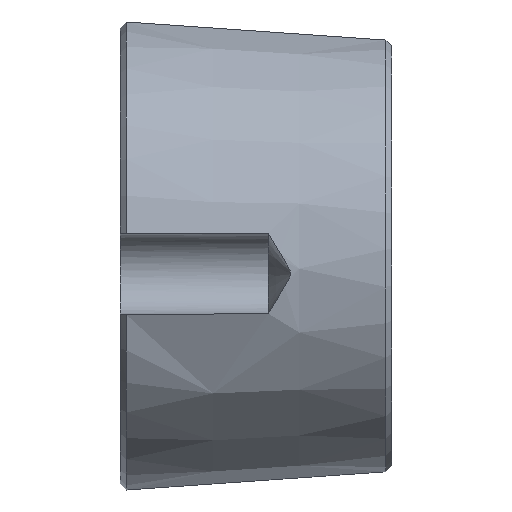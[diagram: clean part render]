
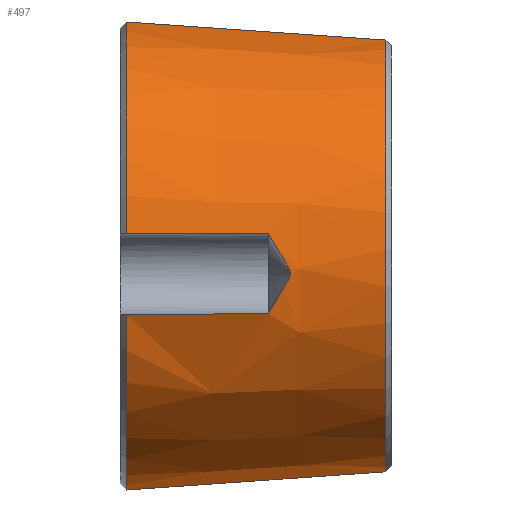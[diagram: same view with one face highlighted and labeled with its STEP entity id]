
A CAD part, top view. The second image highlights one B-rep face of the part: STEP entity #497.
In plain terms, the highlighted conical face has half-angle 4 degrees and reference radius 18.351 mm.
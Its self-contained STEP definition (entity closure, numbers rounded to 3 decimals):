
#16=(
BOUNDED_CURVE()
B_SPLINE_CURVE(2,(#901,#902,#903),.UNSPECIFIED.,.F.,.F.)
B_SPLINE_CURVE_WITH_KNOTS((3,3),(0.,2.105),.UNSPECIFIED.)
CURVE()
GEOMETRIC_REPRESENTATION_ITEM()
RATIONAL_B_SPLINE_CURVE((1.,1.001,1.))
REPRESENTATION_ITEM('')
);
#33=CONICAL_SURFACE('',#547,18.351,4.);
#102=FACE_OUTER_BOUND('',#130,.T.);
#130=EDGE_LOOP('',(#390,#391,#392,#393,#394,#395,#396,#397));
#164=CIRCLE('',#543,19.085);
#165=CIRCLE('',#545,19.085);
#166=CIRCLE('',#548,17.617);
#177=B_SPLINE_CURVE_WITH_KNOTS('',3,(#722,#723,#724,#725,#726,#727,#728,
#729),.UNSPECIFIED.,.F.,.F.,(4,2,2,4),(0.937,1.672,
2.763,2.909),.UNSPECIFIED.);
#189=B_SPLINE_CURVE_WITH_KNOTS('',3,(#858,#859,#860,#861,#862,#863),
 .UNSPECIFIED.,.F.,.F.,(4,2,4),(0.948,1.864,2.016),
 .UNSPECIFIED.);
#190=B_SPLINE_CURVE_WITH_KNOTS('',3,(#866,#867,#868,#869,#870,#871),
 .UNSPECIFIED.,.F.,.F.,(4,2,4),(0.945,1.097,2.012),
 .UNSPECIFIED.);
#191=B_SPLINE_CURVE_WITH_KNOTS('',3,(#873,#874,#875,#876,#877,#878,#879,
#880,#881,#882,#883,#884,#885,#886,#887,#888,#889,#890),.UNSPECIFIED.,.F.,
 .F.,(4,2,2,2,2,2,2,2,4),(1.948,2.132,2.228,
2.276,2.324,2.371,2.419,2.515,
2.699),.UNSPECIFIED.);
#192=VERTEX_POINT('',#715);
#194=VERTEX_POINT('',#721);
#221=VERTEX_POINT('',#847);
#222=VERTEX_POINT('',#852);
#223=VERTEX_POINT('',#857);
#224=VERTEX_POINT('',#864);
#225=VERTEX_POINT('',#892);
#226=VERTEX_POINT('',#900);
#245=EDGE_CURVE('',#194,#192,#177,.T.);
#281=EDGE_CURVE('',#223,#222,#189,.T.);
#283=EDGE_CURVE('',#221,#224,#190,.T.);
#284=EDGE_CURVE('',#223,#224,#191,.T.);
#286=EDGE_CURVE('',#225,#222,#164,.T.);
#287=EDGE_CURVE('',#221,#192,#165,.T.);
#289=EDGE_CURVE('',#225,#226,#16,.T.);
#290=EDGE_CURVE('',#226,#194,#166,.T.);
#390=ORIENTED_EDGE('',*,*,#245,.T.);
#391=ORIENTED_EDGE('',*,*,#287,.F.);
#392=ORIENTED_EDGE('',*,*,#283,.T.);
#393=ORIENTED_EDGE('',*,*,#284,.F.);
#394=ORIENTED_EDGE('',*,*,#281,.T.);
#395=ORIENTED_EDGE('',*,*,#286,.F.);
#396=ORIENTED_EDGE('',*,*,#289,.T.);
#397=ORIENTED_EDGE('',*,*,#290,.T.);
#497=ADVANCED_FACE('',(#102),#33,.T.);
#543=AXIS2_PLACEMENT_3D('',#894,#638,#639);
#545=AXIS2_PLACEMENT_3D('',#896,#642,#643);
#547=AXIS2_PLACEMENT_3D('',#899,#647,#648);
#548=AXIS2_PLACEMENT_3D('',#904,#649,#650);
#638=DIRECTION('center_axis',(-1.,0.,0.));
#639=DIRECTION('ref_axis',(0.,0.,1.));
#642=DIRECTION('center_axis',(-1.,0.,0.));
#643=DIRECTION('ref_axis',(0.,0.,1.));
#647=DIRECTION('center_axis',(-1.,0.,0.));
#648=DIRECTION('ref_axis',(0.,1.,0.));
#649=DIRECTION('center_axis',(-1.,0.,0.));
#650=DIRECTION('ref_axis',(0.,0.,1.));
#715=CARTESIAN_POINT('',(-11.806,25.269,3.23));
#721=CARTESIAN_POINT('',(9.194,23.808,3.058));
#722=CARTESIAN_POINT('Ctrl Pts',(9.194,23.808,3.058));
#723=CARTESIAN_POINT('Ctrl Pts',(6.508,23.988,3.122));
#724=CARTESIAN_POINT('Ctrl Pts',(3.847,24.168,3.169));
#725=CARTESIAN_POINT('Ctrl Pts',(-2.226,24.586,3.244));
#726=CARTESIAN_POINT('Ctrl Pts',(-6.216,24.866,3.262));
#727=CARTESIAN_POINT('Ctrl Pts',(-10.739,25.192,3.238));
#728=CARTESIAN_POINT('Ctrl Pts',(-11.273,25.23,3.234));
#729=CARTESIAN_POINT('Ctrl Pts',(-11.806,25.269,3.23));
#847=CARTESIAN_POINT('',(-11.806,8.089,19.015));
#852=CARTESIAN_POINT('',(-11.806,1.552,18.443));
#857=CARTESIAN_POINT('',(-0.306,1.637,17.633));
#858=CARTESIAN_POINT('Ctrl Pts',(-0.306,1.637,17.633));
#859=CARTESIAN_POINT('Ctrl Pts',(-3.443,1.587,17.847));
#860=CARTESIAN_POINT('Ctrl Pts',(-6.792,1.556,18.081));
#861=CARTESIAN_POINT('Ctrl Pts',(-10.696,1.551,18.363));
#862=CARTESIAN_POINT('Ctrl Pts',(-11.251,1.551,18.403));
#863=CARTESIAN_POINT('Ctrl Pts',(-11.806,1.552,18.443));
#864=CARTESIAN_POINT('',(-0.306,8.146,18.203));
#866=CARTESIAN_POINT('Ctrl Pts',(-11.806,8.089,19.015));
#867=CARTESIAN_POINT('Ctrl Pts',(-11.251,8.097,18.976));
#868=CARTESIAN_POINT('Ctrl Pts',(-10.696,8.104,18.936));
#869=CARTESIAN_POINT('Ctrl Pts',(-6.792,8.148,18.658));
#870=CARTESIAN_POINT('Ctrl Pts',(-3.443,8.158,18.422));
#871=CARTESIAN_POINT('Ctrl Pts',(-0.306,8.146,18.203));
#873=CARTESIAN_POINT('Ctrl Pts',(-0.306,1.637,17.633));
#874=CARTESIAN_POINT('Ctrl Pts',(0.012,2.152,17.751));
#875=CARTESIAN_POINT('Ctrl Pts',(0.347,2.701,17.852));
#876=CARTESIAN_POINT('Ctrl Pts',(0.839,3.52,17.964));
#877=CARTESIAN_POINT('Ctrl Pts',(1.003,3.794,17.995));
#878=CARTESIAN_POINT('Ctrl Pts',(1.232,4.195,18.032));
#879=CARTESIAN_POINT('Ctrl Pts',(1.305,4.326,18.043));
#880=CARTESIAN_POINT('Ctrl Pts',(1.434,4.589,18.063));
#881=CARTESIAN_POINT('Ctrl Pts',(1.499,4.718,18.072));
#882=CARTESIAN_POINT('Ctrl Pts',(1.499,5.035,18.099));
#883=CARTESIAN_POINT('Ctrl Pts',(1.434,5.164,18.113));
#884=CARTESIAN_POINT('Ctrl Pts',(1.305,5.427,18.139));
#885=CARTESIAN_POINT('Ctrl Pts',(1.232,5.557,18.151));
#886=CARTESIAN_POINT('Ctrl Pts',(1.003,5.959,18.184));
#887=CARTESIAN_POINT('Ctrl Pts',(0.839,6.234,18.202));
#888=CARTESIAN_POINT('Ctrl Pts',(0.347,7.06,18.233));
#889=CARTESIAN_POINT('Ctrl Pts',(0.012,7.618,18.23));
#890=CARTESIAN_POINT('Ctrl Pts',(-0.306,8.146,18.203));
#892=CARTESIAN_POINT('',(-11.806,-12.611,0.75));
#894=CARTESIAN_POINT('Origin',(-11.806,6.459,0.));
#896=CARTESIAN_POINT('Origin',(-11.806,6.459,0.));
#899=CARTESIAN_POINT('Origin',(-1.306,6.459,0.));
#900=CARTESIAN_POINT('',(9.194,-11.142,0.75));
#901=CARTESIAN_POINT('Ctrl Pts',(-11.806,-12.611,0.75));
#902=CARTESIAN_POINT('Ctrl Pts',(-0.885,-11.847,0.75));
#903=CARTESIAN_POINT('Ctrl Pts',(9.194,-11.142,0.75));
#904=CARTESIAN_POINT('Origin',(9.194,6.459,0.));
